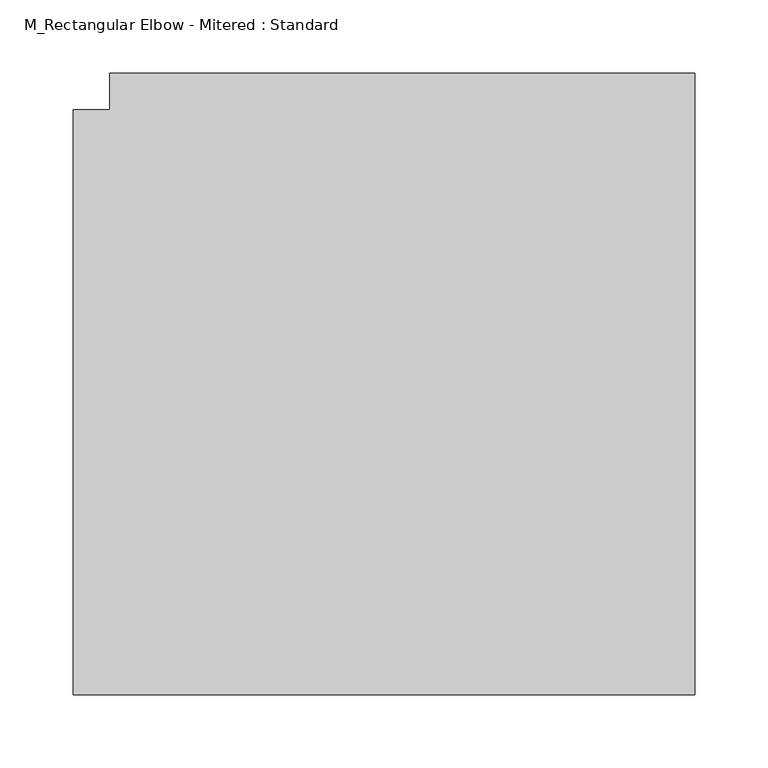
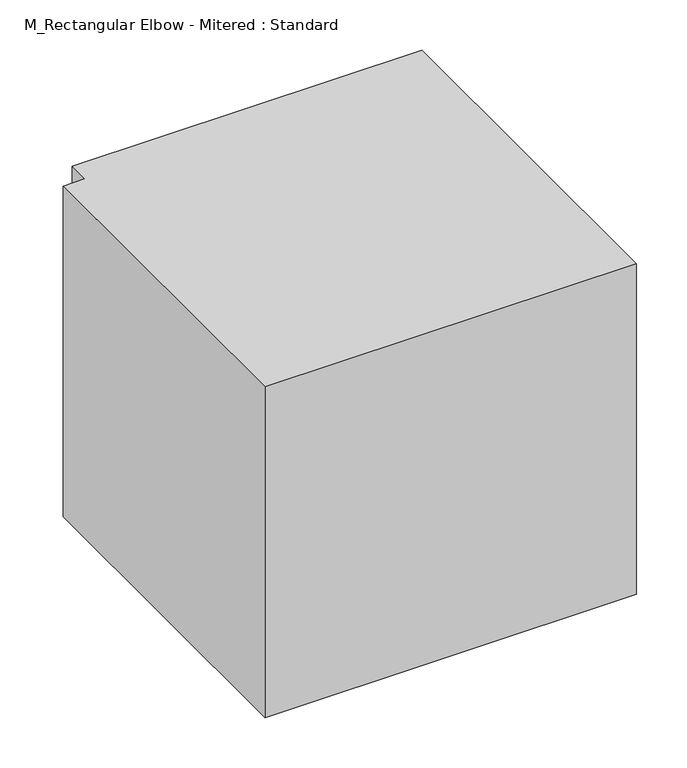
"""IFC4 building model written with IfcOpenShell, lengths in millimetres: duct fitting geometry, M_Rectangular Elbow - Mitered : Standard."""

from ifc_helpers import new_model, si_unit, frame, origin, place, context, project, spatial, polyline, outline, extrude, source, transform, mapped, element, save


def m_rectangular_elbow_mitered_standard_a087e208(model_context):
    return source(origin(), model_context, "Body", "SweptSolid", [
        extrude(outline(polyline([(-225.0, -200.0), (-225.0, 200.0), (-200.0, 200.0), (-200.0, 225.0), (200.0, 225.0), (200.0, -200.0), (-225.0, -200.0)])), frame((0.0, 0.0, -200.0), z_axis=(0.0, 0.0, 1.0), x_axis=(1.0, 0.0, 0.0)), (0.0, 0.0, 1.0), 400.0),
        extrude(outline(polyline([(-225.0, -200.0), (-225.0, 200.0), (-200.0, 200.0), (-200.0, 225.0), (200.0, 225.0), (200.0, -200.0), (-225.0, -200.0)])), frame((0.0, 0.0, -200.0), z_axis=(0.0, 0.0, 1.0), x_axis=(1.0, 0.0, 0.0)), (0.0, 0.0, 1.0), 400.0),
        extrude(outline(polyline([(-225.0, -200.0), (-225.0, 200.0), (-200.0, 200.0), (-200.0, 225.0), (200.0, 225.0), (200.0, -200.0), (-225.0, -200.0)])), frame((0.0, 0.0, -200.0), z_axis=(0.0, 0.0, 1.0), x_axis=(1.0, 0.0, 0.0)), (0.0, 0.0, 1.0), 400.0),
    ])


if __name__ == "__main__":
    model = new_model("IFC4")
    model_context = context("Model", 3, world=origin())
    ifc_project = project(units=[si_unit("LENGTHUNIT", "METRE", prefix="MILLI")], contexts=[model_context])
    site = spatial("IfcSite", under=ifc_project)
    building = spatial("IfcBuilding", under=site)
    placement = place(None, origin())
    m_rectangular_elbow_mitered_standard_shape = m_rectangular_elbow_mitered_standard_a087e208(model_context)
    element("IfcDuctFitting", 1, ObjectType="M_Rectangular Elbow - Mitered : Standard", at=placement, inside=building, context=model_context, shape_type="MappedRepresentation", body=[
        mapped(m_rectangular_elbow_mitered_standard_shape, transform((0.0, 0.0, 0.0), x_axis=(1.0, 0.0, 0.0), y_axis=(0.0, 1.0, 0.0), z_axis=(0.0, 0.0, 1.0))),
    ])
    save(model, "model.ifc")
